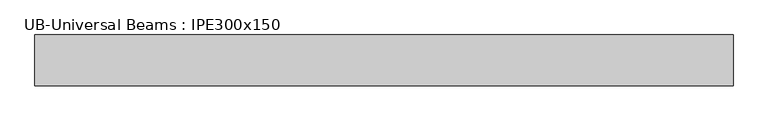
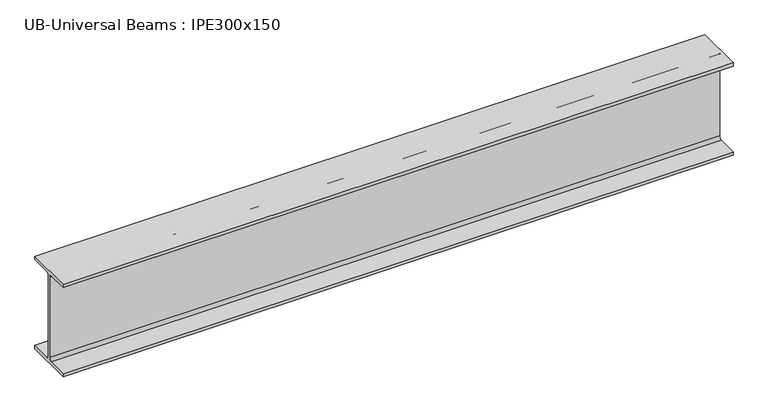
"""IFC4 building model written with IfcOpenShell, lengths in millimetres: beam geometry, UB-Universal Beams : IPE300x150."""

from ifc_helpers import new_model, si_unit, point, frame, frame_2d, origin, place, context, project, spatial, polyline, circle_curve, trimmed, segment, composite_curve, outline, extrude, source, transform, mapped, element, save


def ub_universal_beams_ipe300x150_dde0b0ef(model_context):
    return source(origin(), model_context, "Body", "SweptSolid", [
        extrude(outline(composite_curve([segment(polyline([(75.0, -139.8), (75.0, -150.0), (-75.0, -150.0), (-75.0, -139.8), (-11.9, -139.8)]), True, "CONTINUOUS"), segment(trimmed(circle_curve(frame_2d((-11.9, -130.9)), 8.9), [point((-11.9, -139.8))], [point((-3.0, -130.9))], True, "CARTESIAN"), True, "CONTINUOUS"), segment(polyline([(-3.0, -130.9), (-3.0, 130.9)]), True, "CONTINUOUS"), segment(trimmed(circle_curve(frame_2d((-11.9, 130.9)), 8.9), [point((-3.0, 130.9))], [point((-11.9, 139.8))], True, "CARTESIAN"), True, "CONTINUOUS"), segment(polyline([(-11.9, 139.8), (-75.0, 139.8), (-75.0, 150.0), (75.0, 150.0), (75.0, 139.8), (11.9, 139.8)]), True, "CONTINUOUS"), segment(trimmed(circle_curve(frame_2d((11.9, 130.9)), 8.9), [point((11.9, 139.8))], [point((3.0, 130.9))], True, "CARTESIAN"), True, "CONTINUOUS"), segment(polyline([(3.0, 130.9), (3.0, -130.9)]), True, "CONTINUOUS"), segment(trimmed(circle_curve(frame_2d((11.9, -130.9)), 8.9), [point((3.0, -130.9))], [point((11.9, -139.8))], True, "CARTESIAN"), True, "CONTINUOUS"), segment(polyline([(11.9, -139.8), (75.0, -139.8)]), True, "CONTINUOUS")], self_intersect=False)), frame((-1026.0, 0.0, 0.0), z_axis=(1.0, 0.0, 0.0), x_axis=(0.0, 1.0, 0.0)), (0.0, 0.0, 1.0), 2058.5),
    ])


if __name__ == "__main__":
    model = new_model("IFC4")
    model_context = context("Model", 3, world=origin())
    ifc_project = project(units=[si_unit("LENGTHUNIT", "METRE", prefix="MILLI")], contexts=[model_context])
    site = spatial("IfcSite", under=ifc_project)
    building = spatial("IfcBuilding", under=site)
    placement = place(None, origin())
    ub_universal_beams_ipe300x150_shape = ub_universal_beams_ipe300x150_dde0b0ef(model_context)
    element("IfcBeam", 1, ObjectType="UB-Universal Beams : IPE300x150", at=placement, inside=building, context=model_context, shape_type="MappedRepresentation", body=[
        mapped(ub_universal_beams_ipe300x150_shape, transform((0.0, 0.0, 0.0), x_axis=(1.0, 0.0, 0.0), y_axis=(0.0, 1.0, 0.0), z_axis=(0.0, 0.0, 1.0))),
    ])
    save(model, "model.ifc")
